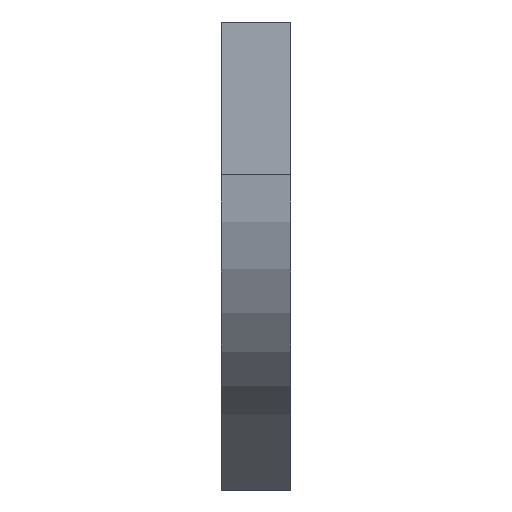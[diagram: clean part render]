
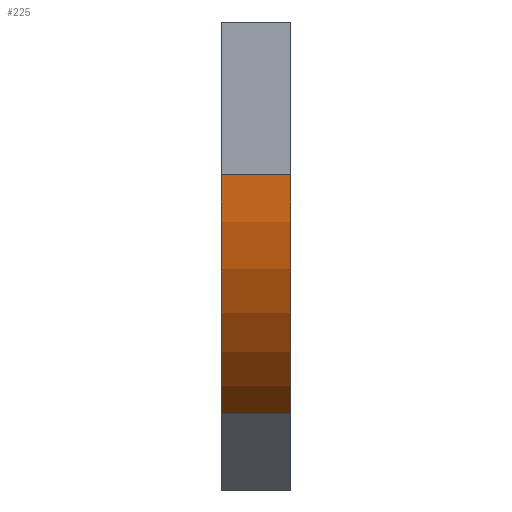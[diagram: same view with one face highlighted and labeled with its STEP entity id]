
A CAD part, left-side view. The second image highlights one B-rep face of the part: STEP entity #225.
In plain terms, the highlighted cylindrical face has radius 300 mm (diameter 600 mm), a partial arc.
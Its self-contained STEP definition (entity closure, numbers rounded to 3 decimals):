
#12 = EDGE_CURVE ( 'NONE', #453, #1653, #732, .T. ) ;
#19 = ORIENTED_EDGE ( 'NONE', *, *, #1647, .F. ) ;
#80 = CARTESIAN_POINT ( 'NONE',  ( 150., 0., -425.278 ) ) ;
#173 = DIRECTION ( 'NONE',  ( 0., -1., 0. ) ) ;
#225 = ADVANCED_FACE ( 'NONE', ( #1291 ), #1470, .T. ) ;
#236 = CARTESIAN_POINT ( 'NONE',  ( 150., 75., -425.278 ) ) ;
#242 = EDGE_CURVE ( 'NONE', #352, #453, #1408, .T. ) ;
#256 = ORIENTED_EDGE ( 'NONE', *, *, #242, .T. ) ;
#260 = CARTESIAN_POINT ( 'NONE',  ( 0., 0., -165.47 ) ) ;
#352 = VERTEX_POINT ( 'NONE', #1197 ) ;
#429 = CARTESIAN_POINT ( 'NONE',  ( 300., 0., -165.47 ) ) ;
#453 = VERTEX_POINT ( 'NONE', #236 ) ;
#490 = CARTESIAN_POINT ( 'NONE',  ( 150., 0., -425.278 ) ) ;
#514 = DIRECTION ( 'NONE',  ( 0., -1., 0. ) ) ;
#627 = VECTOR ( 'NONE', #781, 1000. ) ;
#647 = ORIENTED_EDGE ( 'NONE', *, *, #12, .T. ) ;
#712 = CARTESIAN_POINT ( 'NONE',  ( 300., 75., -165.47 ) ) ;
#720 = DIRECTION ( 'NONE',  ( 0., 0., -1. ) ) ;
#732 = LINE ( 'NONE', #80, #759 ) ;
#759 = VECTOR ( 'NONE', #514, 1000. ) ;
#781 = DIRECTION ( 'NONE',  ( 0., -1., 0. ) ) ;
#884 = CARTESIAN_POINT ( 'NONE',  ( 300., 0., -165.47 ) ) ;
#931 = AXIS2_PLACEMENT_3D ( 'NONE', #429, #1152, #720 ) ;
#1003 = DIRECTION ( 'NONE',  ( 0., -1., 0. ) ) ;
#1057 = LINE ( 'NONE', #260, #627 ) ;
#1134 = CIRCLE ( 'NONE', #1435, 300. ) ;
#1152 = DIRECTION ( 'NONE',  ( 0., -1., 0. ) ) ;
#1197 = CARTESIAN_POINT ( 'NONE',  ( 0., 75., -165.47 ) ) ;
#1291 = FACE_OUTER_BOUND ( 'NONE', #1823, .T. ) ;
#1312 = ORIENTED_EDGE ( 'NONE', *, *, #1414, .F. ) ;
#1321 = CARTESIAN_POINT ( 'NONE',  ( 0., 0., -165.47 ) ) ;
#1330 = DIRECTION ( 'NONE',  ( -1., 0., 0. ) ) ;
#1408 = CIRCLE ( 'NONE', #1465, 300. ) ;
#1414 = EDGE_CURVE ( 'NONE', #1471, #1653, #1134, .T. ) ;
#1435 = AXIS2_PLACEMENT_3D ( 'NONE', #884, #173, #1330 ) ;
#1465 = AXIS2_PLACEMENT_3D ( 'NONE', #712, #1003, #1580 ) ;
#1470 = CYLINDRICAL_SURFACE ( 'NONE', #931, 300. ) ;
#1471 = VERTEX_POINT ( 'NONE', #1321 ) ;
#1580 = DIRECTION ( 'NONE',  ( -1., 0., 0. ) ) ;
#1647 = EDGE_CURVE ( 'NONE', #352, #1471, #1057, .T. ) ;
#1653 = VERTEX_POINT ( 'NONE', #490 ) ;
#1823 = EDGE_LOOP ( 'NONE', ( #1312, #19, #256, #647 ) ) ;
